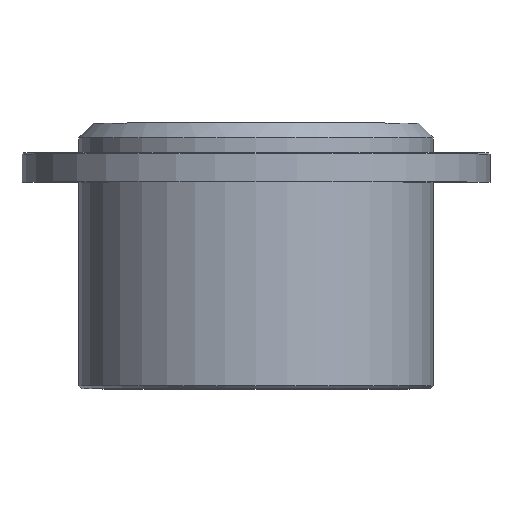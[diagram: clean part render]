
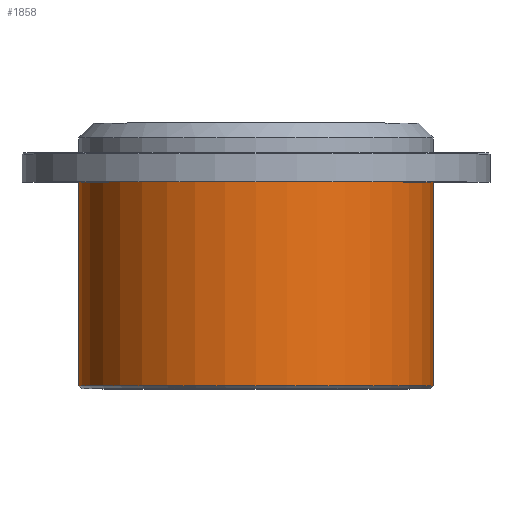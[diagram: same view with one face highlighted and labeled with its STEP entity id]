
A CAD part, top view. The second image highlights one B-rep face of the part: STEP entity #1858.
In plain terms, the highlighted cylindrical face has radius 60 mm (diameter 120 mm), a full revolution.
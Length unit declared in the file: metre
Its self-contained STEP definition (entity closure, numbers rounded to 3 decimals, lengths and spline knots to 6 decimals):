
#1858=ADVANCED_FACE('',(#3610,#3611),#3612,.T.);
#3610=FACE_OUTER_BOUND('',#7115,.T.);
#3611=FACE_OUTER_BOUND('',#7116,.T.);
#3612=CYLINDRICAL_SURFACE('',#7117,0.06);
#7115=EDGE_LOOP('',(#9953));
#7116=EDGE_LOOP('',(#9954));
#7117=AXIS2_PLACEMENT_3D('',#9955,#9956,#9957);
#9953=ORIENTED_EDGE('',*,*,#10546,.T.);
#9954=ORIENTED_EDGE('',*,*,#10499,.F.);
#9955=CARTESIAN_POINT('',(0.031423,-0.027344,0.0));
#9956=DIRECTION('',(-0.0,1.0,-0.0));
#9957=DIRECTION('',(0.0,0.0,-1.0));
#10499=EDGE_CURVE('',#10639,#10639,#10640,.T.);
#10546=EDGE_CURVE('',#10715,#10715,#10716,.T.);
#10639=VERTEX_POINT('',#10839);
#10640=CIRCLE('',#10840,0.06);
#10715=VERTEX_POINT('',#10960);
#10716=CIRCLE('',#10961,0.06);
#10839=CARTESIAN_POINT('',(0.031423,-0.010014,-0.06));
#10840=AXIS2_PLACEMENT_3D('',#11087,#11088,#11089);
#10960=CARTESIAN_POINT('',(0.031423,0.058986,-0.06));
#10961=AXIS2_PLACEMENT_3D('',#11158,#11159,#11160);
#11087=CARTESIAN_POINT('',(0.031423,-0.010014,0.0));
#11088=DIRECTION('',(0.0,-1.0,0.0));
#11089=DIRECTION('',(0.0,0.0,-1.0));
#11158=CARTESIAN_POINT('',(0.031423,0.058986,0.0));
#11159=DIRECTION('',(0.0,-1.0,0.0));
#11160=DIRECTION('',(0.0,0.0,-1.0));
